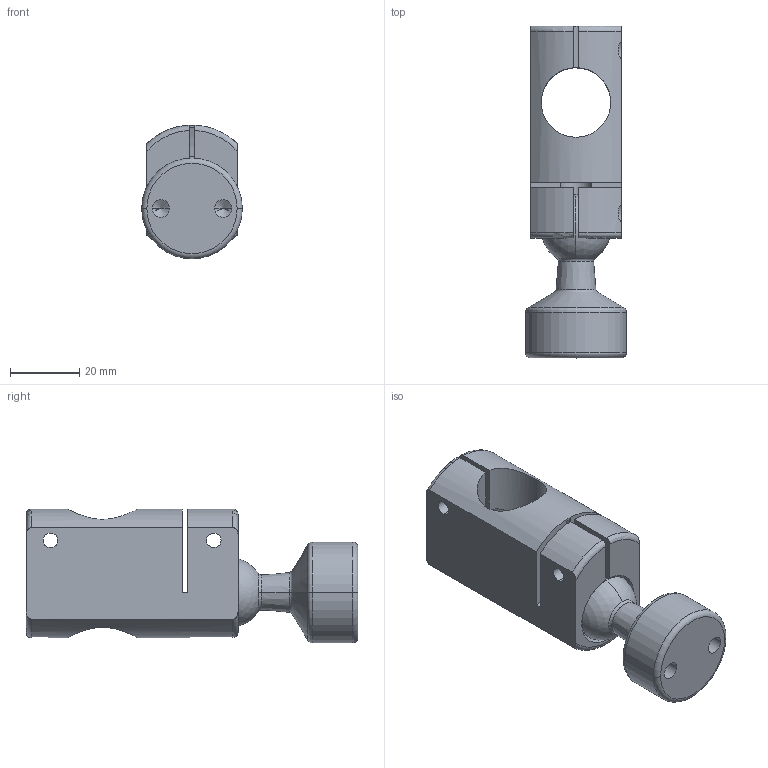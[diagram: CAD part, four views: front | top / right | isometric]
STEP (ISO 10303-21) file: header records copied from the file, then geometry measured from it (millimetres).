
FILE_DESCRIPTION (( 'STEP AP214' ), '1' );
FILE_NAME ('SBC360Q.STEP', '2025-07-23T01:39:37', ( '' ), ( '' ), 'SwSTEP 2.0', 'SolidWorks 2024', '' );
FILE_SCHEMA (( 'AUTOMOTIVE_DESIGN' ));
Length unit declared in the file: millimetre
Products named in the file (3): SBC20-001_Copy of ﾃﾞﾌｫﾙﾄ; SBC20-860; SBC360Q
Assembly tree (2 placements, depth 2):
  SBC360Q
    SBC20-001_Copy of ﾃﾞﾌｫﾙﾄ
    SBC20-860
Bounding box: 29 x 95.5 x 38.49 mm (x, y, z)
Volume: 46683.1 mm3; surface area: 17813.5 mm2
Topology: 2 solids, 2 shells, 94 faces, 250 edges, 154 vertices
Faces by surface type: cylinder 41, plane 19, torus 16, cone 14, sphere 4
Entity records: 3258 total; most frequent: CARTESIAN_POINT 863, DIRECTION 523, ORIENTED_EDGE 470, EDGE_CURVE 235, AXIS2_PLACEMENT_3D 215, VERTEX_POINT 147, CIRCLE 116, EDGE_LOOP 106
